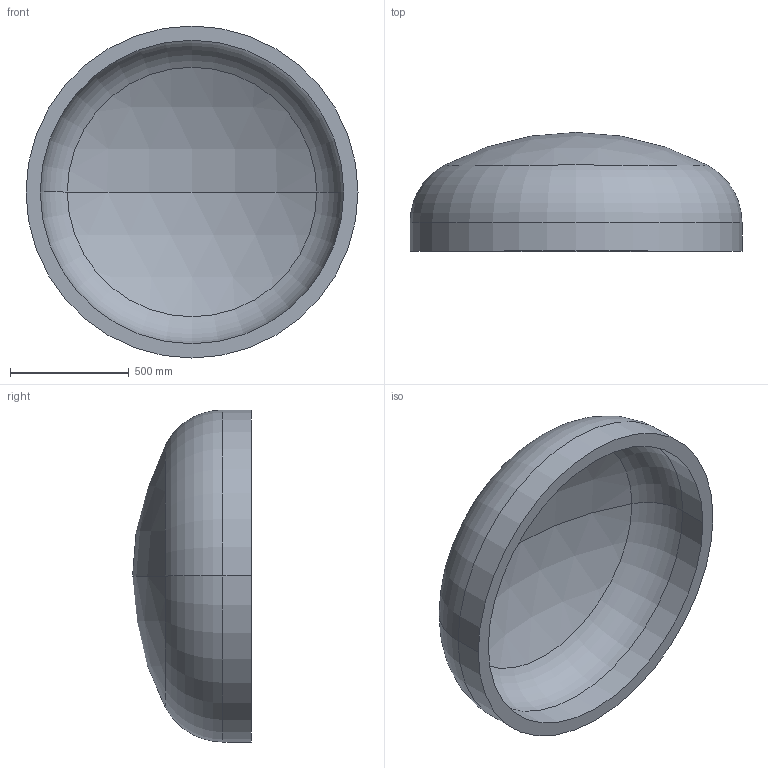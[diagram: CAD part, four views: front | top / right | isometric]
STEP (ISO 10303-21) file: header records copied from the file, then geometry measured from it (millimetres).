
FILE_DESCRIPTION (( 'STEP AP203' ), '1' );
FILE_NAME ('DIN 28013 Korbbogenform_-_Boden DIN 28013 - 1400 x 120 - I - s=60.step', '2016-07-01T10:22:19', ( '' ), ( '' ), 'SwSTEP 2.0', 'SolidWorks 2013', '' );
FILE_SCHEMA (( 'CONFIG_CONTROL_DESIGN' ));
Length unit declared in the file: millimetre
Products named in the file (1): DIN 28013 Korbbogenform_-_Boden DIN 28013 - 1400 x 120 - I - s=60
Bounding box: 1400 x 501 x 1400 mm (x, y, z)
Volume: 151268865.4 mm3; surface area: 5302418.1 mm2
Topology: 1 solids, 1 shells, 13 faces, 24 edges, 14 vertices
Faces by surface type: torus 4, cylinder 4, sphere 4, plane 1
Entity records: 407 total; most frequent: DIRECTION 72, CARTESIAN_POINT 52, ORIENTED_EDGE 48, AXIS2_PLACEMENT_3D 34, EDGE_CURVE 24, CIRCLE 20, EDGE_LOOP 14, VERTEX_POINT 14
